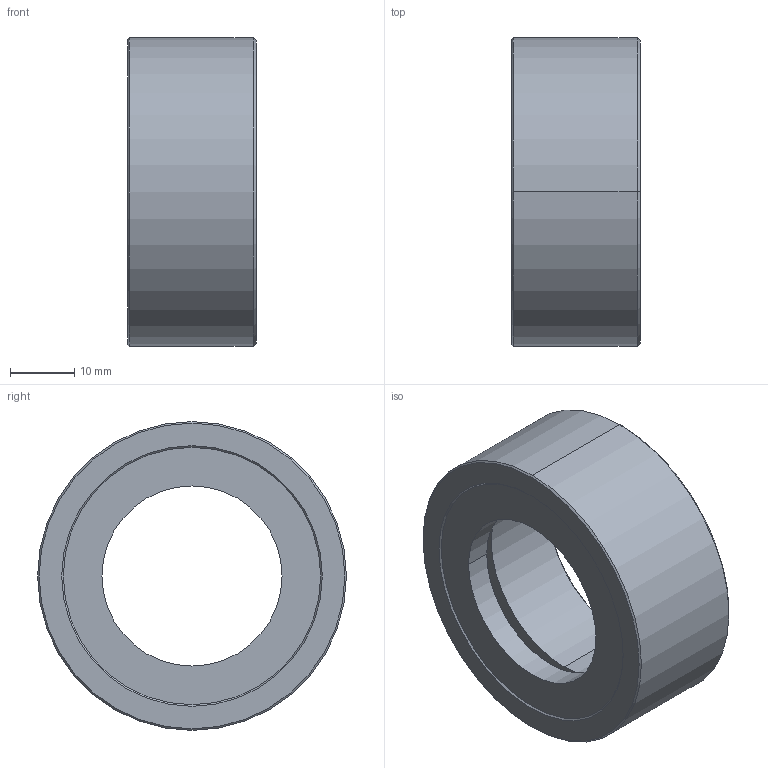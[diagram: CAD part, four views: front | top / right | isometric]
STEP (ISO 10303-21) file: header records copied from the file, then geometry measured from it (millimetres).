
FILE_DESCRIPTION (( 'STEP AP214' ), '1' );
FILE_NAME ('PLL01-28.STEP', '2004-09-02T07:08:30', ( 'Mitarbeiter' ), ( 'Firma' ), 'SwSTEP 2.0', 'SolidWorks 2001287', '' );
FILE_SCHEMA (( 'AUTOMOTIVE_DESIGN' ));
Length unit declared in the file: millimetre
Products named in the file (1): PLL01-28
Bounding box: 20 x 48 x 48 mm (x, y, z)
Volume: 19040.1 mm3; surface area: 8615.4 mm2
Topology: 1 solids, 1 shells, 37 faces, 82 edges, 46 vertices
Faces by surface type: cylinder 16, cone 16, plane 5
Entity records: 1063 total; most frequent: DIRECTION 192, CARTESIAN_POINT 158, ORIENTED_EDGE 148, AXIS2_PLACEMENT_3D 80, EDGE_CURVE 74, VERTEX_POINT 46, EDGE_LOOP 46, CIRCLE 42
